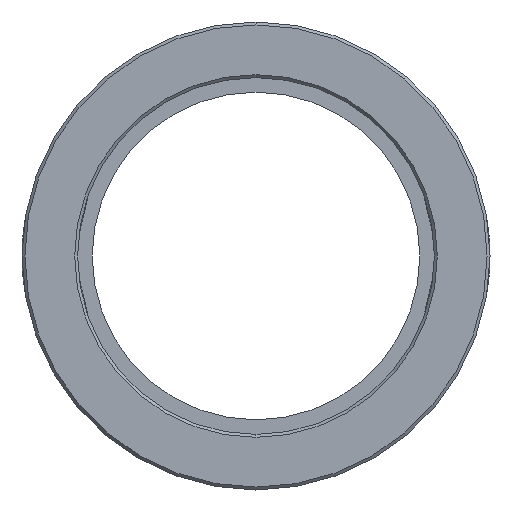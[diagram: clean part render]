
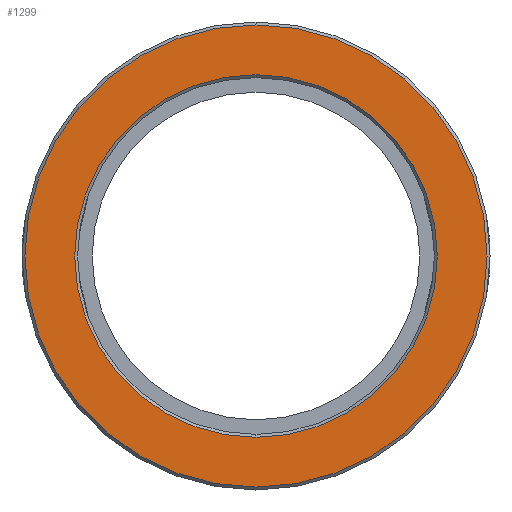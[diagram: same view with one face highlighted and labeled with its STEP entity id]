
A CAD part, left-side view. The second image highlights one B-rep face of the part: STEP entity #1299.
In plain terms, the highlighted planar face has unit normal (-1, 0, 0).
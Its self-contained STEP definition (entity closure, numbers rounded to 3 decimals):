
#11 = PLANE ( 'NONE',  #757 ) ;
#24 = EDGE_CURVE ( 'NONE', #744, #1422, #1167, .T. ) ;
#33 = DIRECTION ( 'NONE',  ( 1., 0., 0. ) ) ;
#35 = DIRECTION ( 'NONE',  ( 0., 0., -1. ) ) ;
#117 = DIRECTION ( 'NONE',  ( -1., 0., 0. ) ) ;
#118 = ORIENTED_EDGE ( 'NONE', *, *, #297, .T. ) ;
#145 = EDGE_CURVE ( 'NONE', #349, #644, #725, .T. ) ;
#165 = CIRCLE ( 'NONE', #1347, 31. ) ;
#226 = DIRECTION ( 'NONE',  ( 0., 0., -1. ) ) ;
#241 = CARTESIAN_POINT ( 'NONE',  ( 0., 0., 0. ) ) ;
#297 = EDGE_CURVE ( 'NONE', #644, #349, #165, .T. ) ;
#343 = DIRECTION ( 'NONE',  ( 1., 0., 0. ) ) ;
#349 = VERTEX_POINT ( 'NONE', #857 ) ;
#584 = EDGE_CURVE ( 'NONE', #1422, #744, #1231, .T. ) ;
#644 = VERTEX_POINT ( 'NONE', #1424 ) ;
#725 = CIRCLE ( 'NONE', #1449, 31. ) ;
#744 = VERTEX_POINT ( 'NONE', #1464 ) ;
#757 = AXIS2_PLACEMENT_3D ( 'NONE', #1519, #33, #35 ) ;
#766 = CARTESIAN_POINT ( 'NONE',  ( 0., 0., 0. ) ) ;
#769 = DIRECTION ( 'NONE',  ( 1., 0., 0. ) ) ;
#771 = DIRECTION ( 'NONE',  ( 0., 0., -1. ) ) ;
#857 = CARTESIAN_POINT ( 'NONE',  ( 0., 0., 31. ) ) ;
#859 = ORIENTED_EDGE ( 'NONE', *, *, #24, .T. ) ;
#899 = FACE_BOUND ( 'NONE', #1546, .T. ) ;
#948 = EDGE_LOOP ( 'NONE', ( #1148, #859 ) ) ;
#994 = ORIENTED_EDGE ( 'NONE', *, *, #145, .T. ) ;
#1060 = CARTESIAN_POINT ( 'NONE',  ( 0., 0., 0. ) ) ;
#1064 = DIRECTION ( 'NONE',  ( -1., 0., 0. ) ) ;
#1070 = DIRECTION ( 'NONE',  ( 0., 0., -1. ) ) ;
#1096 = CARTESIAN_POINT ( 'NONE',  ( 0., 0., 0. ) ) ;
#1148 = ORIENTED_EDGE ( 'NONE', *, *, #584, .T. ) ;
#1167 = CIRCLE ( 'NONE', #1535, 39.5 ) ;
#1185 = AXIS2_PLACEMENT_3D ( 'NONE', #1060, #1064, #1070 ) ;
#1231 = CIRCLE ( 'NONE', #1185, 39.5 ) ;
#1299 = ADVANCED_FACE ( 'NONE', ( #899, #1303 ), #11, .F. ) ;
#1303 = FACE_OUTER_BOUND ( 'NONE', #948, .T. ) ;
#1336 = DIRECTION ( 'NONE',  ( 0., 0., -1. ) ) ;
#1347 = AXIS2_PLACEMENT_3D ( 'NONE', #766, #769, #771 ) ;
#1379 = CARTESIAN_POINT ( 'NONE',  ( 0., 0., -39.5 ) ) ;
#1422 = VERTEX_POINT ( 'NONE', #1379 ) ;
#1424 = CARTESIAN_POINT ( 'NONE',  ( 0., 0., -31. ) ) ;
#1449 = AXIS2_PLACEMENT_3D ( 'NONE', #241, #343, #226 ) ;
#1464 = CARTESIAN_POINT ( 'NONE',  ( 0., 0., 39.5 ) ) ;
#1519 = CARTESIAN_POINT ( 'NONE',  ( 0., 30.5, 0. ) ) ;
#1535 = AXIS2_PLACEMENT_3D ( 'NONE', #1096, #117, #1336 ) ;
#1546 = EDGE_LOOP ( 'NONE', ( #994, #118 ) ) ;
